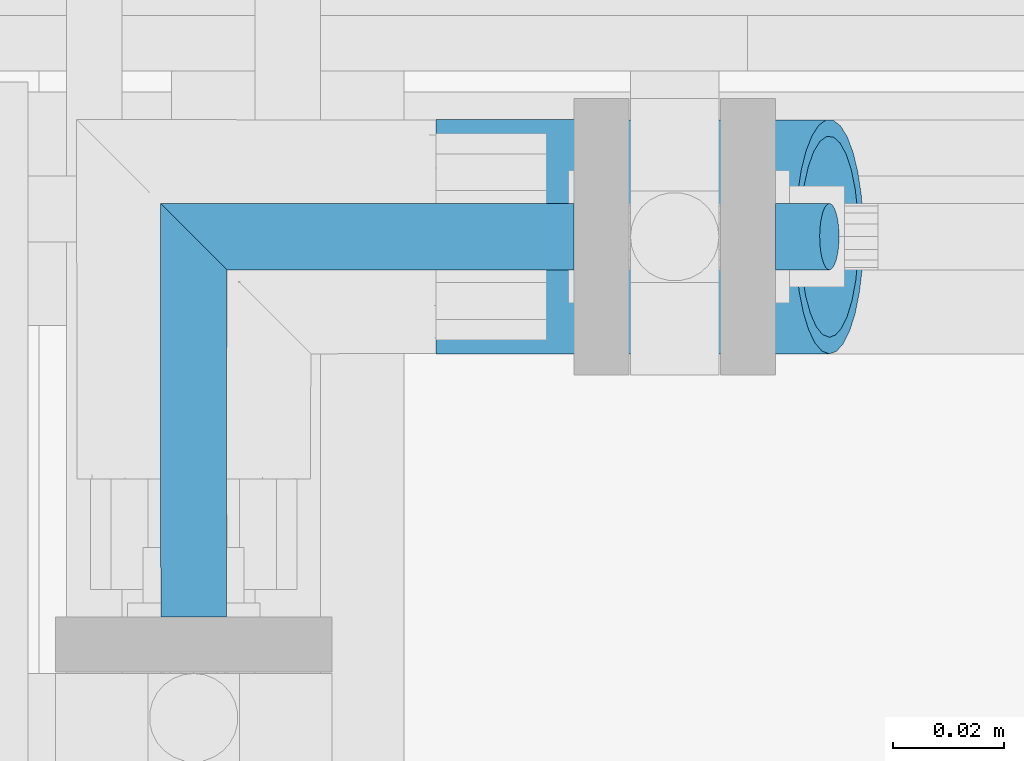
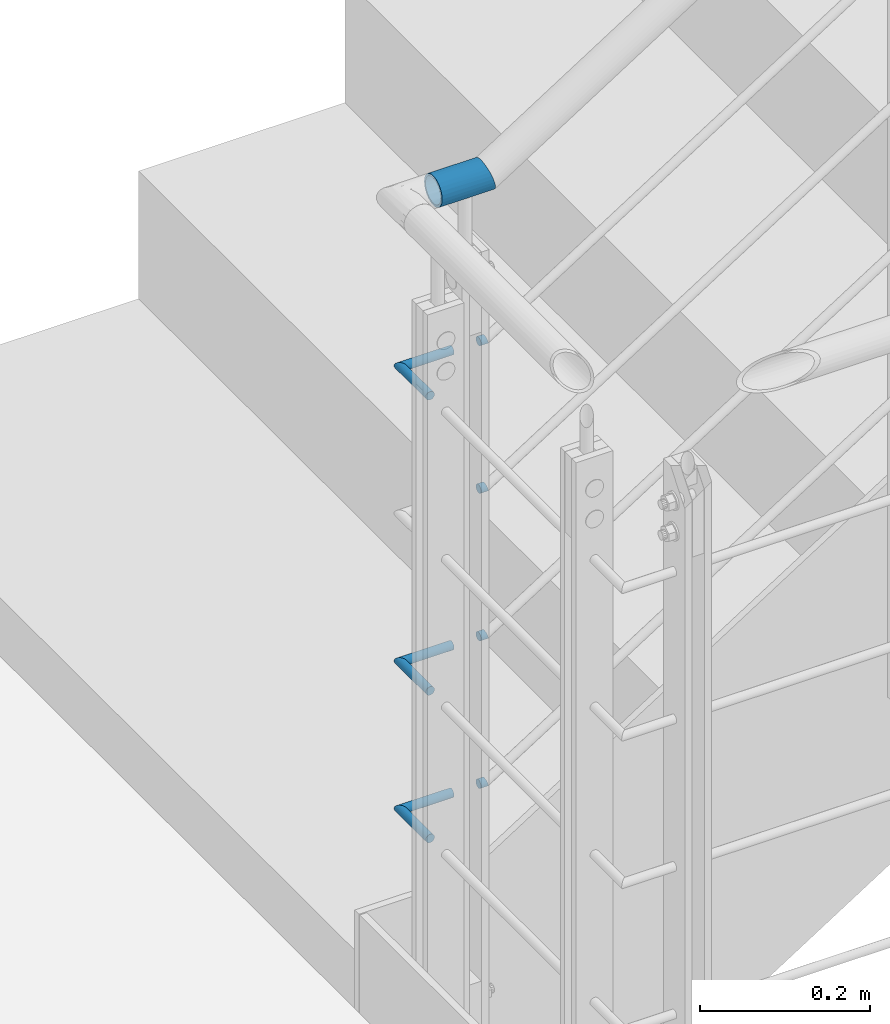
# One storey, part 15 of 98: 11 beams.
"""IFC2X3 building model written with IfcOpenShell, lengths in millimetres."""

import ifcopenshell
import ifcopenshell.guid

model = None  # the IFC model being written
_history = None  # IfcOwnerHistory: only IFC2X3 demands one
_inside = {}  # id of a spatial element -> (the spatial element, [elements in it])
_under = {}  # id of a project, library or spatial element -> (it, [spatial elements below it])
_declared = {}  # id of a project -> (the project, [libraries it declares])
_typed = {}  # id of a type object -> (the type object, [elements of that type])
_made_of = {}  # id of a material, layer set ... -> (it, [elements and type objects made of it])


def new_model(schema):
    """Start an empty IFC model of exactly this schema.

    Asked for "IFC4X3", IfcOpenShell would pick the latest addendum, in which some entities
    have other attributes; the version numbers below select the first issue.
    IFC2X3 requires an IfcOwnerHistory on every rooted entity: one is made here for all.
    """
    global model, _history
    if schema == "IFC4X3":
        model = ifcopenshell.file(schema_version=(4, 3, 0, 0))
    else:
        model = ifcopenshell.file(schema=schema)
    _inside.clear()
    _under.clear()
    _declared.clear()
    _typed.clear()
    _made_of.clear()
    _history = None
    if model.schema == "IFC2X3":
        org = make("IfcOrganization", Name="unknown")
        user = make(
            "IfcPersonAndOrganization",
            ThePerson=make("IfcPerson", FamilyName="unknown"),
            TheOrganization=org,
        )
        app = make(
            "IfcApplication",
            ApplicationDeveloper=org,
            Version="unknown",
            ApplicationFullName="unknown",
            ApplicationIdentifier="unknown",
        )
        _history = make(
            "IfcOwnerHistory",
            OwningUser=user,
            OwningApplication=app,
            ChangeAction="ADDED",
            CreationDate=0,
        )
    return model


def make(cls, **values):
    """One entity of the class cls with the attributes given. An attribute that is None is left unset."""
    return model.create_entity(
        cls, **{name: value for name, value in values.items() if value is not None}
    )


def entity(cls, *values):
    """Any entity or typed value of the class cls, its attributes in the order of the schema. None: left unset."""
    e = model.create_entity(cls)
    for i, value in enumerate(values):
        if value is not None:
            e[i] = value
    return e


def rooted(cls, **values):
    """An entity with a GlobalId (a new one), such as an element, a storey or a relation."""
    return make(cls, GlobalId=ifcopenshell.guid.new(), OwnerHistory=_history, **values)


def si_unit(unit_type, name, prefix=None):
    """IfcSIUnit, for example si_unit("LENGTHUNIT", "METRE", prefix="MILLI")."""
    return make("IfcSIUnit", UnitType=unit_type, Prefix=prefix, Name=name)


def converted_unit(unit_type, name, factor, base, dimensions=None, offset=None):
    """IfcConversionBasedUnit, such as the inch: factor (a typed value) times the base unit."""
    return make(
        "IfcConversionBasedUnit"
        if offset is None
        else "IfcConversionBasedUnitWithOffset",
        ConversionOffset=offset,
        Dimensions=None
        if dimensions is None
        else entity("IfcDimensionalExponents", *dimensions),
        UnitType=unit_type,
        Name=name,
        ConversionFactor=make(
            "IfcMeasureWithUnit", ValueComponent=factor, UnitComponent=base
        ),
    )


def assignment(units):
    """IfcUnitAssignment: the units of a project."""
    return None if units is None else make("IfcUnitAssignment", Units=units)


def point(xyz):
    """IfcCartesianPoint."""
    return None if xyz is None else make("IfcCartesianPoint", Coordinates=xyz)


def direction(xyz):
    """IfcDirection."""
    return None if xyz is None else make("IfcDirection", DirectionRatios=xyz)


def frame(location, z_axis=None, x_axis=None):
    """IfcAxis2Placement3D, a coordinate frame: its origin and axes. An axis left out is left unset."""
    return make(
        "IfcAxis2Placement3D",
        Location=point(location),
        Axis=direction(z_axis),
        RefDirection=direction(x_axis),
    )


def frame_2d(location, x_axis=None):
    """IfcAxis2Placement2D, a coordinate frame in the plane: its origin and x axis."""
    return make(
        "IfcAxis2Placement2D", Location=point(location), RefDirection=direction(x_axis)
    )


def origin():
    """The frame at (0, 0, 0) with its axes left unset."""
    return frame((0.0, 0.0, 0.0))


def origin_with_axes():
    """The frame at (0, 0, 0) with the z axis (0, 0, 1) and the x axis (1, 0, 0) written out."""
    return frame((0.0, 0.0, 0.0), z_axis=(0.0, 0.0, 1.0), x_axis=(1.0, 0.0, 0.0))


def origin_2d():
    """The frame at (0, 0) in the plane with its x axis left unset."""
    return frame_2d((0.0, 0.0))


def place(relative_to, where):
    """IfcLocalPlacement: puts the frame where relative to a parent placement (None: the world)."""
    return make(
        "IfcLocalPlacement", PlacementRelTo=relative_to, RelativePlacement=where
    )


def context(
    kind, dimensions, precision=None, world=None, true_north=None, identifier=None
):
    """IfcGeometricRepresentationContext, for example the 3D "Model" context."""
    return make(
        "IfcGeometricRepresentationContext",
        ContextIdentifier=identifier,
        ContextType=kind,
        CoordinateSpaceDimension=dimensions,
        Precision=precision,
        WorldCoordinateSystem=world,
        TrueNorth=true_north,
    )


def project(units=None, contexts=None):
    """IfcProject with its units and contexts."""
    return rooted(
        "IfcProject",
        Name="project",
        RepresentationContexts=contexts,
        UnitsInContext=assignment(units),
    )


def spatial(cls, under=None, at=None, **own):
    """A site, building, storey or space (cls), placed at a placement, below another one or the project."""
    s = rooted(cls, ObjectPlacement=at, **own)
    if under is not None:
        _under.setdefault(under.id(), (under, []))[1].append(s)
    return s


def profile(cls, at=None, kind="AREA", **sizes):
    """A parametric profile (cls). Its sizes go by their IFC names, for example OverallWidth=200.0."""
    return make(cls, ProfileType=kind, Position=at, **sizes)


def circle(**sizes):
    """IfcCircleProfileDef."""
    return profile("IfcCircleProfileDef", **sizes)


def hollow_circle(**sizes):
    """IfcCircleHollowProfileDef."""
    return profile("IfcCircleHollowProfileDef", **sizes)


def extrude(swept, where, along, depth):
    """IfcExtrudedAreaSolid: the profile swept, set in the frame where, extruded along a direction by depth."""
    return make(
        "IfcExtrudedAreaSolid",
        SweptArea=swept,
        Position=where,
        ExtrudedDirection=direction(along),
        Depth=depth,
    )


def clip(a, b, op="DIFFERENCE"):
    """IfcBooleanClippingResult: the solid a cut by the half space b."""
    return make(
        "IfcBooleanClippingResult", Operator=op, FirstOperand=a, SecondOperand=b
    )


def halfspace(plane, agree):
    """IfcHalfSpaceSolid: all space on one side of the plane z = 0 of the frame plane."""
    return make(
        "IfcHalfSpaceSolid",
        BaseSurface=make("IfcPlane", Position=plane),
        AgreementFlag=agree,
    )


def shape(context_of_items, identifier, shape_type, items):
    """IfcShapeRepresentation: the items that make up one representation, for example the "Body"."""
    return make(
        "IfcShapeRepresentation",
        ContextOfItems=context_of_items,
        RepresentationIdentifier=identifier,
        RepresentationType=shape_type,
        Items=items,
    )


def material(Name=None, Category=None):
    """IfcMaterial."""
    return make("IfcMaterial", Name=Name, Category=Category)


def made_of(thing, what):
    """Note that an element or type object is made of a material, layer set ...; save() writes the relation."""
    if what is not None:
        _made_of.setdefault(what.id(), (what, []))[1].append(thing)
    return thing


def element(
    cls,
    number,
    at=None,
    inside=None,
    cuts=None,
    type_object=None,
    material=None,
    context=None,
    identifier="Body",
    shape_type=None,
    held_by="IfcProductDefinitionShape",
    body=None,
    shapes=None,
    **own,
):
    """One element of the class cls, such as IfcWall. Its Tag is "e" and its number.

    at: its placement. inside: the storey or other place that contains it. cuts: it is an
    opening in that element (IfcRelVoidsElement). A single representation is given by context,
    identifier, shape_type and body (its items); several are given by shapes. held_by: the class
    of the entity that holds the representations. save() writes the other relations.
    """
    e = rooted(cls, Tag="e%d" % number, ObjectPlacement=at, **own)
    if body is not None:
        shapes = [shape(context, identifier, shape_type, body)]
    if shapes is not None:
        e.Representation = make(held_by, Representations=shapes)
    if inside is not None:
        _inside.setdefault(inside.id(), (inside, []))[1].append(e)
    if cuts is not None:
        rooted(
            "IfcRelVoidsElement", RelatingBuildingElement=cuts, RelatedOpeningElement=e
        )
    if type_object is not None:
        _typed.setdefault(type_object.id(), (type_object, []))[1].append(e)
    return made_of(e, material)


def aggregate(whole, parts):
    """IfcRelAggregates: a whole, such as a stair, and the parts it consists of."""
    return rooted("IfcRelAggregates", RelatingObject=whole, RelatedObjects=parts)


def save(model, path):
    """Write the relations noted so far, then the file.

    IfcRelAggregates (storeys below a building ...), IfcRelContainedInSpatialStructure (elements
    in a storey), IfcRelDefinesByType, IfcRelAssociatesMaterial and IfcRelDeclares: one each for
    every whole, place, type object, material and project.
    """
    for whole, parts in _under.values():
        aggregate(whole, parts)
    for where, things in _inside.values():
        rooted(
            "IfcRelContainedInSpatialStructure",
            RelatedElements=things,
            RelatingStructure=where,
        )
    for kind, things in _typed.values():
        rooted("IfcRelDefinesByType", RelatedObjects=things, RelatingType=kind)
    for what, things in _made_of.values():
        rooted("IfcRelAssociatesMaterial", RelatedObjects=things, RelatingMaterial=what)
    for by, libraries in _declared.values():
        rooted("IfcRelDeclares", RelatingContext=by, RelatedDefinitions=libraries)
    model.write(path)


model = new_model("IFC2X3")

# Units and contexts
model_context = context("Model", 3, precision=1e-09, world=origin_with_axes())
ifc_project = project(units=[si_unit("LENGTHUNIT", "METRE", prefix="MILLI"), si_unit("AREAUNIT", "SQUARE_METRE"), si_unit("VOLUMEUNIT", "CUBIC_METRE"), converted_unit("PLANEANGLEUNIT", "DEGREE", entity("IfcPlaneAngleMeasure", 0.01745329), si_unit("PLANEANGLEUNIT", "RADIAN"), dimensions=[0, 0, 0, 0, 0, 0, 0])], contexts=[model_context])

# Site, building, storey
site_placement = place(None, origin_with_axes())
site = spatial("IfcSite", under=ifc_project, at=site_placement, Name="Maybachstra?e 2, 71563 Affalterbach", CompositionType="ELEMENT")
building_placement = place(site_placement, origin_with_axes())
building = spatial("IfcBuilding", under=site, at=building_placement, Name="Struktur 1", CompositionType="ELEMENT")
storey_placement = place(building_placement, origin_with_axes())
storey = spatial("IfcBuildingStorey", under=building, at=storey_placement, Name="Default Storey", CompositionType="ELEMENT", Elevation=0.0)

# Beams
ifc_material_1 = material(Name="S235JR")
beam_1_placement = place(None, frame((7426.279157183, -45.0, 4028.8), z_axis=(-1.0, 0.0, 0.0), x_axis=(0.0, -1.0, 0.0)))
element("IfcBeam", 1, at=beam_1_placement, inside=storey, material=ifc_material_1, Name="-", ObjectType="-", context=model_context, shape_type="Clipping", body=[
    clip(extrude(circle(Radius=6.0, at=origin_2d()), origin(), (0.0, 0.0, -1.0), 18.557420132), halfspace(frame((-45.0, -1716.795884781, -509.865386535), z_axis=(0.0, -0.279698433, 0.960087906), x_axis=(1.0, 0.0, 0.0)), True)),
])
beam_2_placement = place(None, frame((7321.028157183, -33.0, 3604.8), z_axis=(0.0, 1.0, 0.0), x_axis=(0.0, 0.0, 1.0)))
element("IfcBeam", 2, at=beam_2_placement, inside=storey, material=ifc_material_1, Name="-", ObjectType="-", context=model_context, shape_type="Clipping", body=[
    clip(extrude(circle(Radius=6.0, at=origin_2d()), origin(), (0.0, 0.0, -1.0), 80.75), halfspace(frame((-3604.8, -3683.014785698, 3671.013371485), z_axis=(0.0, -0.707106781, -0.707106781), x_axis=(0.0, 0.707106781, -0.707106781)), True)),
])
beam_3_placement = place(None, frame((7309.028157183, -45.0, 3604.8), z_axis=(-1.0, 0.0, 0.0), x_axis=(0.0, -1.0, 0.0)))
element("IfcBeam", 3, at=beam_3_placement, inside=storey, material=ifc_material_1, Name="-", ObjectType="-", context=model_context, shape_type="Clipping", body=[
    clip(extrude(circle(Radius=6.0, at=origin_2d()), origin(), (0.0, 0.0, -1.0), 80.751), halfspace(frame((-3683.014785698, -3604.8, 3671.013371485), z_axis=(-0.707106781, 0.0, -0.707106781), x_axis=(-0.707106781, 0.0, 0.707106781)), True)),
])
beam_4_placement = place(None, frame((7426.279157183, -45.0, 3604.8), z_axis=(-1.0, 0.0, 0.0), x_axis=(0.0, -1.0, 0.0)))
element("IfcBeam", 4, at=beam_4_placement, inside=storey, material=ifc_material_1, Name="-", ObjectType="-", context=model_context, shape_type="Clipping", body=[
    clip(extrude(circle(Radius=6.0, at=origin_2d()), origin(), (0.0, 0.0, -1.0), 18.557420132), halfspace(frame((-45.0, -1325.965919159, -396.006511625), z_axis=(0.0, -0.279698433, 0.960087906), x_axis=(1.0, 0.0, 0.0)), True)),
])
beam_5_placement = place(None, frame((7321.028157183, -33.0, 3816.8), z_axis=(0.0, 1.0, 0.0), x_axis=(0.0, 0.0, 1.0)))
element("IfcBeam", 5, at=beam_5_placement, inside=storey, material=ifc_material_1, Name="-", ObjectType="-", context=model_context, shape_type="Clipping", body=[
    clip(extrude(circle(Radius=6.0, at=origin_2d()), origin(), (0.0, 0.0, -1.0), 80.75), halfspace(frame((-3816.8, -3683.014785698, 3671.013371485), z_axis=(0.0, -0.707106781, -0.707106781), x_axis=(0.0, 0.707106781, -0.707106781)), True)),
])
beam_6_placement = place(None, frame((7309.028157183, -45.0, 3816.8), z_axis=(-1.0, 0.0, 0.0), x_axis=(0.0, -1.0, 0.0)))
element("IfcBeam", 6, at=beam_6_placement, inside=storey, material=ifc_material_1, Name="-", ObjectType="-", context=model_context, shape_type="Clipping", body=[
    clip(extrude(circle(Radius=6.0, at=origin_2d()), origin(), (0.0, 0.0, -1.0), 80.751), halfspace(frame((-3683.014785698, -3816.8, 3671.013371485), z_axis=(-0.707106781, 0.0, -0.707106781), x_axis=(-0.707106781, 0.0, 0.707106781)), True)),
])
beam_7_placement = place(None, frame((7426.279157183, -45.0, 3816.8), z_axis=(-1.0, 0.0, 0.0), x_axis=(0.0, -1.0, 0.0)))
element("IfcBeam", 7, at=beam_7_placement, inside=storey, material=ifc_material_1, Name="-", ObjectType="-", context=model_context, shape_type="Clipping", body=[
    clip(extrude(circle(Radius=6.0, at=origin_2d()), origin(), (0.0, 0.0, -1.0), 18.557420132), halfspace(frame((-45.0, -1521.38090197, -452.93594908), z_axis=(0.0, -0.279698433, 0.960087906), x_axis=(1.0, 0.0, 0.0)), True)),
])
ifc_material_2 = material(Name="1.4301")
beam_8_placement = place(None, frame((7364.828157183, -45.0, 4478.8), z_axis=(-1.0, 0.0, 0.0), x_axis=(0.0, -1.0, 0.0)))
element("IfcBeam", 8, at=beam_8_placement, inside=storey, material=ifc_material_2, Name="-", ObjectType="-", context=model_context, shape_type="Clipping", body=[
    clip(extrude(hollow_circle(Radius=21.2, WallThickness=3.0, at=origin_2d()), origin(), (0.0, 0.0, -1.0), 102.398084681), halfspace(frame((-45.0, -2131.591838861, -692.157173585), z_axis=(0.0, -0.279698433, 0.960087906), x_axis=(1.0, 0.0, 0.0)), True)),
])
beam_9_placement = place(None, frame((7309.028157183, -45.0, 4240.8), z_axis=(-1.0, 0.0, 0.0), x_axis=(0.0, -1.0, 0.0)))
element("IfcBeam", 9, at=beam_9_placement, inside=storey, material=ifc_material_1, Name="-", ObjectType="-", context=model_context, shape_type="Clipping", body=[
    clip(extrude(circle(Radius=6.0, at=origin_2d()), origin(), (0.0, 0.0, -1.0), 80.751), halfspace(frame((-3683.014785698, -4240.8, 3671.013371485), z_axis=(-0.707106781, 0.0, -0.707106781), x_axis=(-0.707106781, 0.0, 0.707106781)), True)),
])
beam_10_placement = place(None, frame((7426.279157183, -45.0, 4240.8), z_axis=(-1.0, 0.0, 0.0), x_axis=(0.0, -1.0, 0.0)))
element("IfcBeam", 10, at=beam_10_placement, inside=storey, material=ifc_material_1, Name="-", ObjectType="-", context=model_context, shape_type="Clipping", body=[
    clip(extrude(circle(Radius=6.0, at=origin_2d()), origin(), (0.0, 0.0, -1.0), 18.557420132), halfspace(frame((-45.0, -1912.210867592, -566.79482399), z_axis=(0.0, -0.279698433, 0.960087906), x_axis=(1.0, 0.0, 0.0)), True)),
])
beam_11_placement = place(None, frame((7321.028157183, -33.0, 4240.8), z_axis=(0.0, 1.0, 0.0), x_axis=(0.0, 0.0, 1.0)))
element("IfcBeam", 11, at=beam_11_placement, inside=storey, material=ifc_material_1, Name="-", ObjectType="-", context=model_context, shape_type="Clipping", body=[
    clip(extrude(circle(Radius=6.0, at=origin_2d()), origin(), (0.0, 0.0, -1.0), 80.75), halfspace(frame((-4240.8, -3683.014785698, 3671.013371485), z_axis=(0.0, -0.707106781, -0.707106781), x_axis=(0.0, 0.707106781, -0.707106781)), True)),
])

save(model, "model.ifc")
